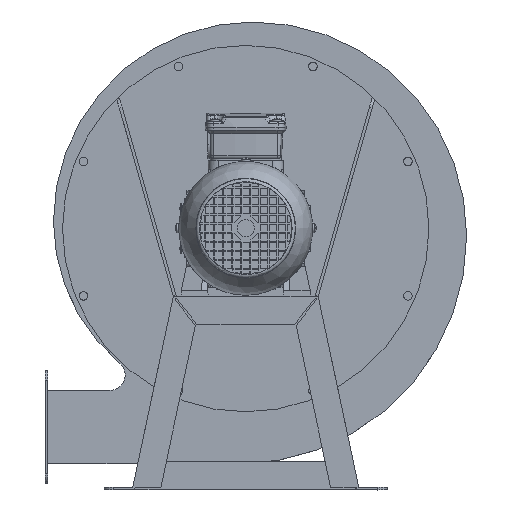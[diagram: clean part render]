
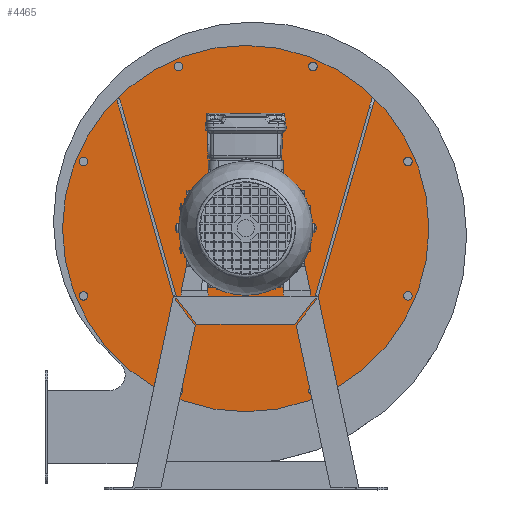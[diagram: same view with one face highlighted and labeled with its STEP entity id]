
A CAD part, top view. The second image highlights one B-rep face of the part: STEP entity #4465.
In plain terms, the highlighted planar face has unit normal (0, 0, 1).
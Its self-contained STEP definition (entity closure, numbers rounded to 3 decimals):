
#4130=CARTESIAN_POINT('',(-537.599,1784.579,0.0));
#4131=VERTEX_POINT('',#4130);
#4132=CARTESIAN_POINT('',(-560.099,1784.579,0.0));
#4133=DIRECTION('',(0.0,0.0,1.0));
#4134=DIRECTION('',(-1.0,0.0,0.0));
#4135=AXIS2_PLACEMENT_3D('',#4132,#4133,#4134);
#4136=CIRCLE('',#4135,22.5);
#4137=EDGE_CURVE('',#4131,#4131,#4136,.T.);
#4158=CARTESIAN_POINT('',(-485.185,1954.573,0.0));
#4159=VERTEX_POINT('',#4158);
#4160=CARTESIAN_POINT('',(-489.685,1954.573,0.0));
#4161=DIRECTION('',(0.0,0.0,1.0));
#4162=DIRECTION('',(-1.0,0.0,0.0));
#4163=AXIS2_PLACEMENT_3D('',#4160,#4161,#4162);
#4164=CIRCLE('',#4163,4.5);
#4165=EDGE_CURVE('',#4159,#4159,#4164,.T.);
#4186=CARTESIAN_POINT('',(-385.605,1854.993,0.0));
#4187=VERTEX_POINT('',#4186);
#4188=CARTESIAN_POINT('',(-390.105,1854.993,0.0));
#4189=DIRECTION('',(0.0,0.0,1.0));
#4190=DIRECTION('',(-1.0,0.0,0.0));
#4191=AXIS2_PLACEMENT_3D('',#4188,#4189,#4190);
#4192=CIRCLE('',#4191,4.5);
#4193=EDGE_CURVE('',#4187,#4187,#4192,.T.);
#4214=CARTESIAN_POINT('',(-385.605,1714.166,0.0));
#4215=VERTEX_POINT('',#4214);
#4216=CARTESIAN_POINT('',(-390.105,1714.166,0.0));
#4217=DIRECTION('',(0.0,0.0,1.0));
#4218=DIRECTION('',(-1.0,0.0,0.0));
#4219=AXIS2_PLACEMENT_3D('',#4216,#4217,#4218);
#4220=CIRCLE('',#4219,4.5);
#4221=EDGE_CURVE('',#4215,#4215,#4220,.T.);
#4242=CARTESIAN_POINT('',(-485.185,1614.586,0.0));
#4243=VERTEX_POINT('',#4242);
#4244=CARTESIAN_POINT('',(-489.685,1614.586,0.0));
#4245=DIRECTION('',(0.0,0.0,1.0));
#4246=DIRECTION('',(-1.0,0.0,0.0));
#4247=AXIS2_PLACEMENT_3D('',#4244,#4245,#4246);
#4248=CIRCLE('',#4247,4.5);
#4249=EDGE_CURVE('',#4243,#4243,#4248,.T.);
#4270=CARTESIAN_POINT('',(-626.013,1614.586,0.0));
#4271=VERTEX_POINT('',#4270);
#4272=CARTESIAN_POINT('',(-630.513,1614.586,0.0));
#4273=DIRECTION('',(0.0,0.0,1.0));
#4274=DIRECTION('',(-1.0,0.0,0.0));
#4275=AXIS2_PLACEMENT_3D('',#4272,#4273,#4274);
#4276=CIRCLE('',#4275,4.5);
#4277=EDGE_CURVE('',#4271,#4271,#4276,.T.);
#4298=CARTESIAN_POINT('',(-725.593,1714.166,0.0));
#4299=VERTEX_POINT('',#4298);
#4300=CARTESIAN_POINT('',(-730.093,1714.166,0.0));
#4301=DIRECTION('',(0.0,0.0,1.0));
#4302=DIRECTION('',(-1.0,0.0,0.0));
#4303=AXIS2_PLACEMENT_3D('',#4300,#4301,#4302);
#4304=CIRCLE('',#4303,4.5);
#4305=EDGE_CURVE('',#4299,#4299,#4304,.T.);
#4326=CARTESIAN_POINT('',(-725.593,1854.993,0.0));
#4327=VERTEX_POINT('',#4326);
#4328=CARTESIAN_POINT('',(-730.093,1854.993,0.0));
#4329=DIRECTION('',(0.0,0.0,1.0));
#4330=DIRECTION('',(-1.0,0.0,0.0));
#4331=AXIS2_PLACEMENT_3D('',#4328,#4329,#4330);
#4332=CIRCLE('',#4331,4.5);
#4333=EDGE_CURVE('',#4327,#4327,#4332,.T.);
#4354=CARTESIAN_POINT('',(-626.013,1954.573,0.0));
#4355=VERTEX_POINT('',#4354);
#4356=CARTESIAN_POINT('',(-630.513,1954.573,0.0));
#4357=DIRECTION('',(0.0,0.0,1.0));
#4358=DIRECTION('',(-1.0,0.0,0.0));
#4359=AXIS2_PLACEMENT_3D('',#4356,#4357,#4358);
#4360=CIRCLE('',#4359,4.5);
#4361=EDGE_CURVE('',#4355,#4355,#4360,.T.);
#4382=CARTESIAN_POINT('',(-368.099,1784.579,0.0));
#4383=VERTEX_POINT('',#4382);
#4384=CARTESIAN_POINT('',(-560.099,1784.579,0.0));
#4385=DIRECTION('',(0.0,0.0,-1.0));
#4386=DIRECTION('',(-1.0,0.0,0.0));
#4387=AXIS2_PLACEMENT_3D('',#4384,#4385,#4386);
#4388=CIRCLE('',#4387,192.);
#4389=EDGE_CURVE('',#4383,#4383,#4388,.T.);
#4430=CARTESIAN_POINT('',(-560.099,1784.579,0.0));
#4431=DIRECTION('',(0.0,0.0,-1.0));
#4432=DIRECTION('',(-1.0,0.0,0.0));
#4433=AXIS2_PLACEMENT_3D('',#4430,#4431,#4432);
#4434=PLANE('',#4433);
#4435=ORIENTED_EDGE('',*,*,#4389,.F.);
#4436=EDGE_LOOP('',(#4435));
#4437=FACE_OUTER_BOUND('',#4436,.T.);
#4438=ORIENTED_EDGE('',*,*,#4137,.F.);
#4439=EDGE_LOOP('',(#4438));
#4440=FACE_BOUND('',#4439,.T.);
#4441=ORIENTED_EDGE('',*,*,#4165,.F.);
#4442=EDGE_LOOP('',(#4441));
#4443=FACE_BOUND('',#4442,.T.);
#4444=ORIENTED_EDGE('',*,*,#4193,.F.);
#4445=EDGE_LOOP('',(#4444));
#4446=FACE_BOUND('',#4445,.T.);
#4447=ORIENTED_EDGE('',*,*,#4221,.F.);
#4448=EDGE_LOOP('',(#4447));
#4449=FACE_BOUND('',#4448,.T.);
#4450=ORIENTED_EDGE('',*,*,#4249,.F.);
#4451=EDGE_LOOP('',(#4450));
#4452=FACE_BOUND('',#4451,.T.);
#4453=ORIENTED_EDGE('',*,*,#4277,.F.);
#4454=EDGE_LOOP('',(#4453));
#4455=FACE_BOUND('',#4454,.T.);
#4456=ORIENTED_EDGE('',*,*,#4305,.F.);
#4457=EDGE_LOOP('',(#4456));
#4458=FACE_BOUND('',#4457,.T.);
#4459=ORIENTED_EDGE('',*,*,#4333,.F.);
#4460=EDGE_LOOP('',(#4459));
#4461=FACE_BOUND('',#4460,.T.);
#4462=ORIENTED_EDGE('',*,*,#4361,.F.);
#4463=EDGE_LOOP('',(#4462));
#4464=FACE_BOUND('',#4463,.T.);
#4465=ADVANCED_FACE('',(#4437,#4440,#4443,#4446,#4449,#4452,#4455,#4458,#4461,#4464),#4434,.F.);
